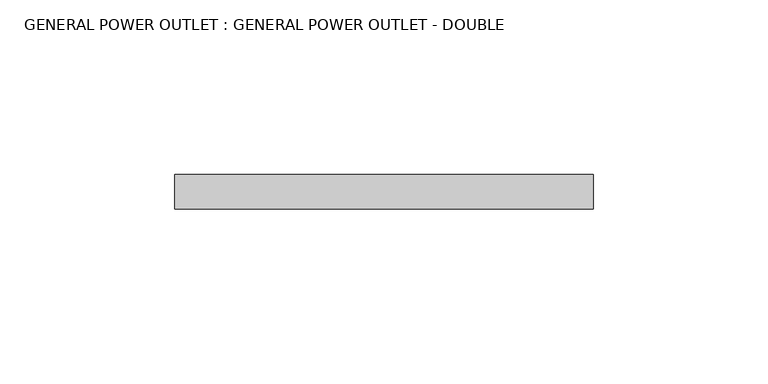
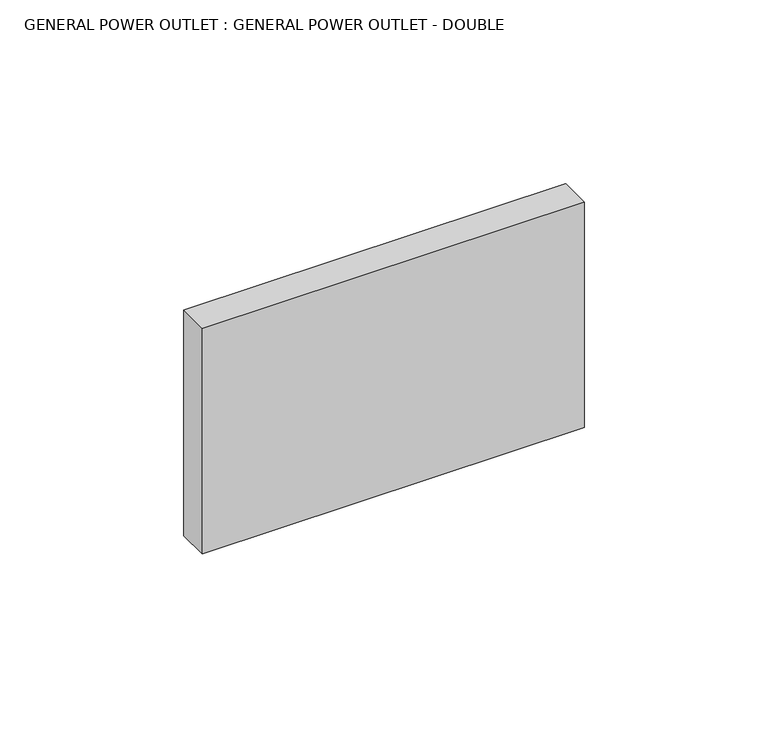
"""IFC4 building model written with IfcOpenShell, lengths in millimetres: proxy geometry, GENERAL POWER OUTLET : GENERAL POWER OUTLET - DOUBLE."""

from ifc_helpers import new_model, si_unit, frame, origin, place, context, project, spatial, polyline, outline, extrude, source, transform, mapped, element, save


def general_power_outlet_general_power_outlet_double_e32b39d1(model_context):
    return source(origin(), model_context, "Body", "SweptSolid", [
        extrude(outline(polyline([(60.0, 10.0), (60.0, 0.0), (-60.0, 0.0), (-60.0, 10.0), (60.0, 10.0)])), frame((0.0, 0.0, 1062.5), z_axis=(0.0, 0.0, 1.0), x_axis=(1.0, 0.0, 0.0)), (0.0, 0.0, 1.0), 75.0),
    ])


if __name__ == "__main__":
    model = new_model("IFC4")
    model_context = context("Model", 3, world=origin())
    ifc_project = project(units=[si_unit("LENGTHUNIT", "METRE", prefix="MILLI")], contexts=[model_context])
    site = spatial("IfcSite", under=ifc_project)
    building = spatial("IfcBuilding", under=site)
    placement = place(None, origin())
    general_power_outlet_general_power_outlet_double_shape = general_power_outlet_general_power_outlet_double_e32b39d1(model_context)
    element("IfcBuildingElementProxy", 1, Name="GENERAL POWER OUTLET : GENERAL POWER OUTLET - DOUBLE", ObjectType="GENERAL POWER OUTLET : GENERAL POWER OUTLET - DOUBLE", at=placement, inside=building, context=model_context, shape_type="MappedRepresentation", body=[
        mapped(general_power_outlet_general_power_outlet_double_shape, transform((0.0, 0.0, 0.0), x_axis=(1.0, 0.0, 0.0), y_axis=(0.0, 1.0, 0.0), z_axis=(0.0, 0.0, 1.0))),
    ])
    save(model, "model.ifc")
